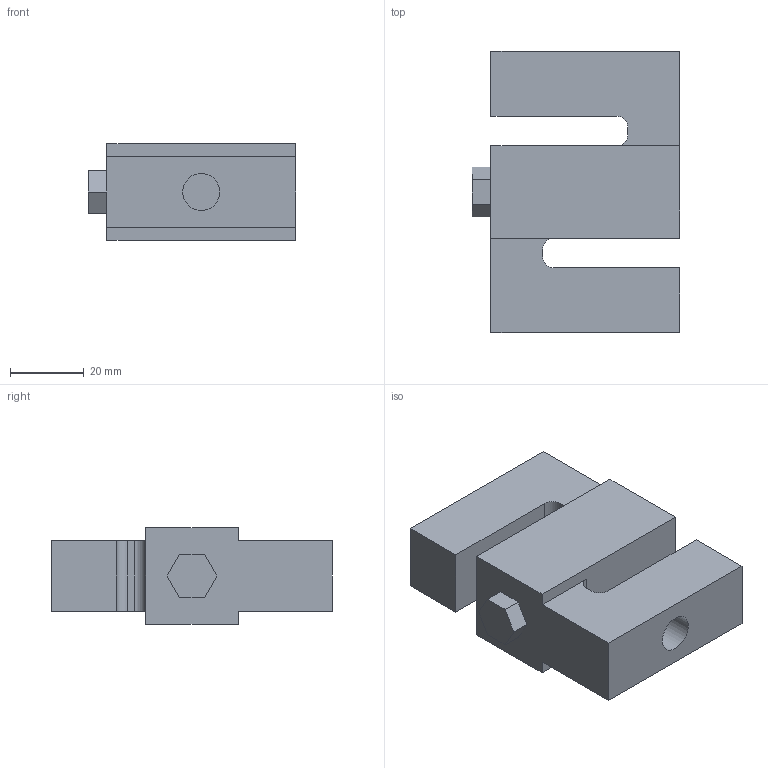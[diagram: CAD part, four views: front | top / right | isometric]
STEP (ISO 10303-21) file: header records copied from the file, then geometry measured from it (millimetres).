
FILE_DESCRIPTION(/* description */ ('Alibre Inc.'),/* implementation_level */ '2;1');
FILE_NAME(/* name */ 'export0',/* time_stamp */ '2013-08-28T12:49:04-06:00',/* author */ (''),/* organization */ (''),/* preprocessor_version */ 'ST-DEVELOPER v14',/* originating_system */ 'Alibre',/* authorisation */ '');
FILE_SCHEMA (('ALIBRE_SCHEMA','CONFIG_CONTROL_DESIGN'));
Length unit declared in the file: centimetre
Products named in the file (1): ID_1
Bounding box: 56 x 76 x 26 mm (x, y, z)
Volume: 69310.8 mm3; surface area: 16175.5 mm2
Topology: 1 solids, 1 shells, 31 faces, 86 edges, 58 vertices
Faces by surface type: plane 25, cylinder 6
Full cylindrical faces by diameter (mm): 10 x2
Entity records: 2793 total; most frequent: CARTESIAN_POINT 366, CONSTRAINTPAIRUV 249, DIRECTION 243, VECTOR 177, REFERENCEDEPENDENTUV 172, ORIENTED_EDGE 164, REFERENCEPOINTUV 132, LINE 127
